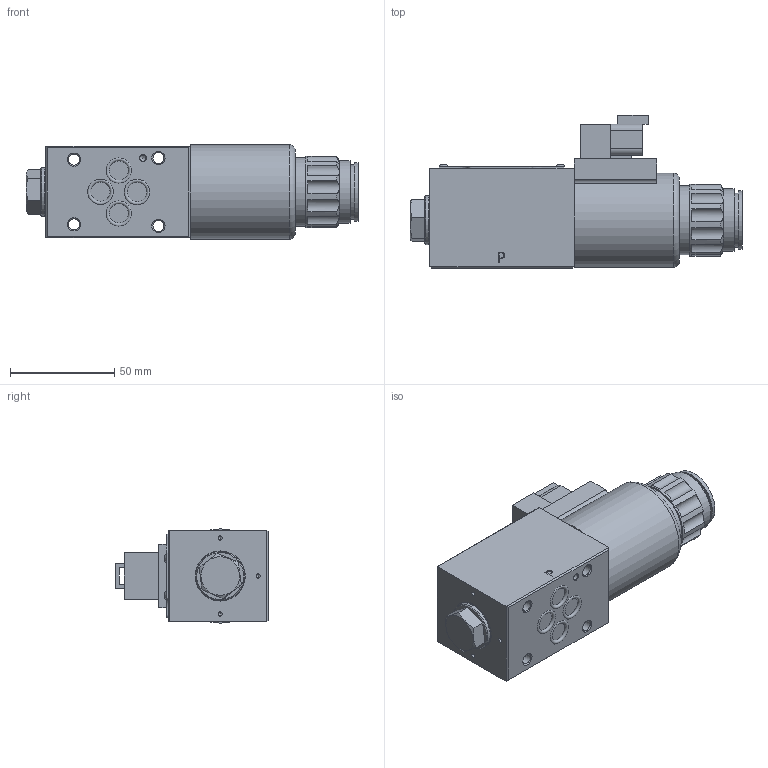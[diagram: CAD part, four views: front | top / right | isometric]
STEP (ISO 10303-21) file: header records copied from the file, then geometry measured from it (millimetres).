
FILE_DESCRIPTION(/* description */ (''),/* implementation_level */ '2;1');
FILE_NAME(/* name */ '2.stp',/* time_stamp */ '2024-02-26T17:01:53+08:00',/* author */ (''),/* organization */ (''),/* preprocessor_version */ 'ST-DEVELOPER v16.7',/* originating_system */ 'SIEMENS PLM Software NX 12.0',/* authorisation */ '');
FILE_SCHEMA (('AUTOMOTIVE_DESIGN { 1 0 10303 214 3 1 1 1 }'));
Length unit declared in the file: millimetre
Products named in the file (1): 1_stp
Bounding box: 159.15 x 73.78 x 45.2 mm (x, y, z)
Volume: 247861.1 mm3; surface area: 71576.7 mm2
Topology: 42 solids, 49 shells, 1030 faces, 2656 edges, 1742 vertices
Faces by surface type: plane 690, cylinder 209, cone 52, bspline 28, torus 27, extrusion 18, sphere 6
Full cylindrical faces by diameter (mm): 1.5 x1, 1.8 x4, 2 x6, 2.5 x2, 3 x2, 4 x1, 4.6 x2, 5 x1, 5.3 x4, 8 x1, 8.1 x1, 8.7 x1, 9 x1, 9.4 x4, 11 x1, 12 x2, 12.2 x2, 12.5 x1, 14.3 x1, 14.5 x1, 17.4 x1, 18 x2, 20 x1, 23 x2, 23.5 x2, 24 x2, 26 x1, 28 x1, 30 x1, 33 x1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
Entity records: 38486 total; most frequent: CARTESIAN_POINT 13508, ORIENTED_EDGE 4970, DIRECTION 4754, EDGE_CURVE 2485, VECTOR 1842, LINE 1824, VERTEX_POINT 1703, AXIS2_PLACEMENT_3D 1456
